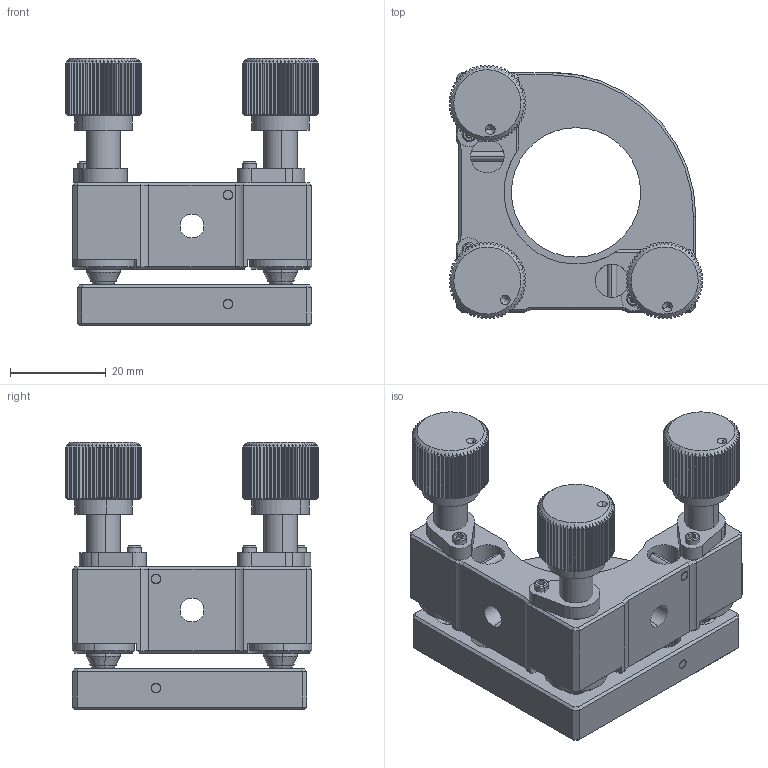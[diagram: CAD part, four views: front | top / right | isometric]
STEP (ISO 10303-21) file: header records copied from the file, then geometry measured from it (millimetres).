
FILE_DESCRIPTION (( 'STEP AP203' ), '1' );
FILE_NAME ('OMHS30-S.step', '2019-05-09T09:03:10', ( '' ), ( '' ), 'SwSTEP 2.0', 'SolidWorks 2016', '' );
FILE_SCHEMA (( 'CONFIG_CONTROL_DESIGN' ));
Length unit declared in the file: millimetre
Products named in the file (1): OMHS30-S
Bounding box: 52.99 x 52.99 x 55.8 mm (x, y, z)
Surface area: 20361.5 mm2 (no closed solid volume)
Topology: 0 solids, 32 shells, 1044 faces, 2888 edges, 1871 vertices
Faces by surface type: plane 519, cylinder 281, cone 238, torus 6
Entity records: 34199 total; most frequent: CARTESIAN_POINT 8642, ORIENTED_EDGE 5322, DIRECTION 5047, EDGE_CURVE 2874, AXIS2_PLACEMENT_3D 1898, VERTEX_POINT 1867, LINE 1251, VECTOR 1251
